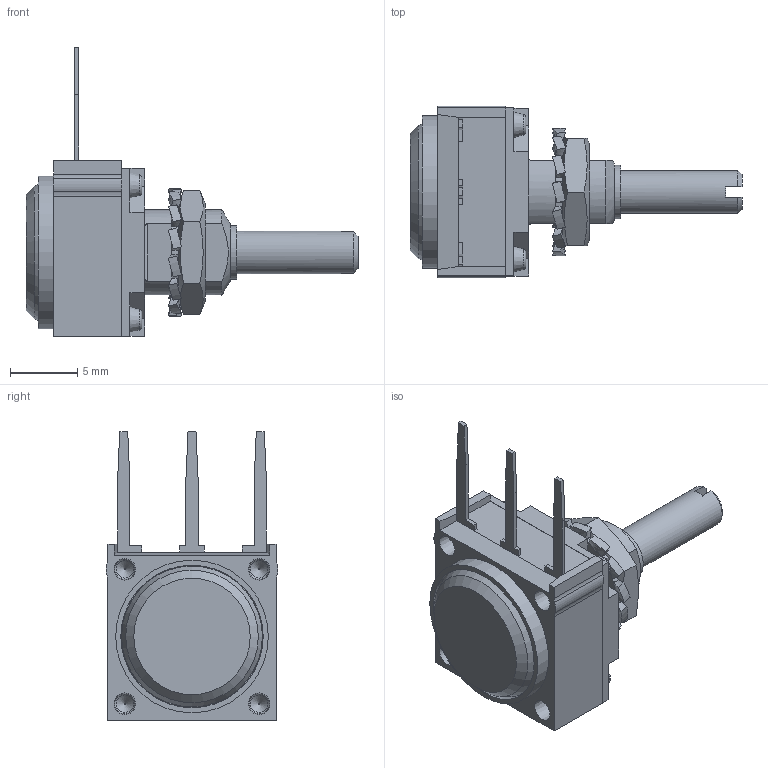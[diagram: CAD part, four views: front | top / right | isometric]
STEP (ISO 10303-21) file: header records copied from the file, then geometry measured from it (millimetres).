
FILE_DESCRIPTION(/* description */ ('Unknown'),/* implementation_level */ '2;1');
FILE_NAME(/* name */ 'P11L1A0BGSX00502KA',/* time_stamp */ '2018-03-06T16:03:18+01:00',/* author */ ('Unknown'),/* organization */ ('Unknown'),/* preprocessor_version */ 'ST-DEVELOPER v16.7',/* originating_system */ 'DEX',/* authorisation */ $);
FILE_SCHEMA (('AUTOMOTIVE_DESIGN {1 0 10303 214 3 1 1}'));
Length unit declared in the file: millimetre
Products named in the file (1): P11L1A0BGSX00502KA
Bounding box: 24.7 x 12.79 x 21.5 mm (x, y, z)
Volume: 1502.8 mm3; surface area: 2978.6 mm2
Topology: 10 solids, 10 shells, 600 faces, 1617 edges, 1070 vertices
Faces by surface type: plane 322, cylinder 152, bspline 72, cone 44, torus 10
Full cylindrical faces by diameter (mm): 1.3 x4, 1.5 x8, 1.55 x4, 2.55 x2, 2.6 x2, 2.66 x2, 3.17 x1, 4 x1, 4.1 x1, 5.25 x2, 5.491 x1, 6.4 x2, 6.65 x1, 7.42 x1, 7.44 x1, 8.4 x1, 9.65 x1, 10.6 x1, 11.35 x1
Entity records: 19815 total; most frequent: CARTESIAN_POINT 5135, ORIENTED_EDGE 3014, DIRECTION 2850, EDGE_CURVE 1507, VERTEX_POINT 1035, AXIS2_PLACEMENT_3D 958, LINE 934, VECTOR 934
